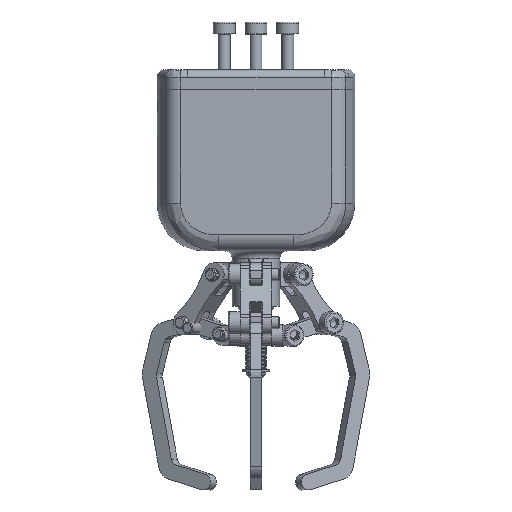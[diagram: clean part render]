
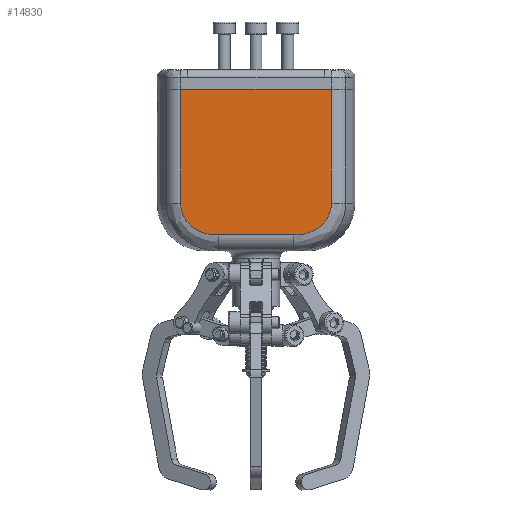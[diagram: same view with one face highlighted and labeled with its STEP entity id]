
A CAD part, top view. The second image highlights one B-rep face of the part: STEP entity #14830.
In plain terms, the highlighted planar face has unit normal (0, 0, 1) as drawn and (0, -1, 0) by its records, which use the part's own axes.
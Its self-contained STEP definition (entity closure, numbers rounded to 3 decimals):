
#1027=PLANE('',#15936);
#1446=B_SPLINE_CURVE_WITH_KNOTS('',3,(#22138,#22139,#22140,#22141,#22142,
#22143,#22144),.UNSPECIFIED.,.F.,.F.,(4,1,1,1,4),(0.,0.198,
0.595,0.991,1.388),.UNSPECIFIED.);
#1448=B_SPLINE_CURVE_WITH_KNOTS('',3,(#22196,#22197,#22198,#22199,#22200,
#22201,#22202),.UNSPECIFIED.,.F.,.F.,(4,1,1,1,4),(0.,0.198,
0.595,0.991,1.388),.UNSPECIFIED.);
#1726=FACE_OUTER_BOUND('',#2530,.T.);
#2530=EDGE_LOOP('',(#10255,#10256,#10257,#10258,#10259,#10260));
#3409=LINE('',#22092,#4668);
#3410=LINE('',#22149,#4669);
#3412=LINE('',#22207,#4671);
#3414=LINE('',#22222,#4673);
#4668=VECTOR('',#17530,10.);
#4669=VECTOR('',#17537,10.);
#4671=VECTOR('',#17545,10.);
#4673=VECTOR('',#17571,10.);
#6523=VERTEX_POINT('',#22085);
#6526=VERTEX_POINT('',#22090);
#6528=VERTEX_POINT('',#22136);
#6530=VERTEX_POINT('',#22147);
#6532=VERTEX_POINT('',#22194);
#6534=VERTEX_POINT('',#22205);
#7985=EDGE_CURVE('',#6526,#6523,#3409,.T.);
#7988=EDGE_CURVE('',#6528,#6526,#1446,.T.);
#7990=EDGE_CURVE('',#6530,#6528,#3410,.T.);
#7994=EDGE_CURVE('',#6532,#6530,#1448,.T.);
#7996=EDGE_CURVE('',#6534,#6532,#3412,.T.);
#8005=EDGE_CURVE('',#6523,#6534,#3414,.T.);
#10255=ORIENTED_EDGE('',*,*,#7996,.F.);
#10256=ORIENTED_EDGE('',*,*,#8005,.F.);
#10257=ORIENTED_EDGE('',*,*,#7985,.F.);
#10258=ORIENTED_EDGE('',*,*,#7988,.F.);
#10259=ORIENTED_EDGE('',*,*,#7990,.F.);
#10260=ORIENTED_EDGE('',*,*,#7994,.F.);
#14830=ADVANCED_FACE('',(#1726),#1027,.T.);
#15936=AXIS2_PLACEMENT_3D('',#22272,#17610,#17611);
#17530=DIRECTION('',(0.,0.,1.));
#17537=DIRECTION('',(-1.,0.,0.));
#17545=DIRECTION('',(0.,0.,-1.));
#17571=DIRECTION('',(1.,0.,0.));
#17610=DIRECTION('center_axis',(0.,-1.,0.));
#17611=DIRECTION('ref_axis',(1.,0.,0.));
#22085=CARTESIAN_POINT('',(-19.043,-12.852,54.75));
#22090=CARTESIAN_POINT('',(-19.043,-12.852,26.));
#22092=CARTESIAN_POINT('',(-19.043,-12.852,17.));
#22136=CARTESIAN_POINT('',(-9.521,-12.852,18.));
#22138=CARTESIAN_POINT('Ctrl Pts',(-9.521,-12.852,
18.));
#22139=CARTESIAN_POINT('Ctrl Pts',(-10.182,-12.852,
18.));
#22140=CARTESIAN_POINT('Ctrl Pts',(-12.163,-12.852,
18.131));
#22141=CARTESIAN_POINT('Ctrl Pts',(-15.362,-12.852,
19.191));
#22142=CARTESIAN_POINT('Ctrl Pts',(-18.295,-12.852,22.04));
#22143=CARTESIAN_POINT('Ctrl Pts',(-19.043,-12.852,
24.678));
#22144=CARTESIAN_POINT('Ctrl Pts',(-19.043,-12.852,
26.));
#22147=CARTESIAN_POINT('',(9.521,-12.852,18.));
#22149=CARTESIAN_POINT('',(-10.722,-12.852,18.));
#22194=CARTESIAN_POINT('',(19.043,-12.852,26.));
#22196=CARTESIAN_POINT('Ctrl Pts',(19.043,-12.852,26.));
#22197=CARTESIAN_POINT('Ctrl Pts',(19.043,-12.852,25.339));
#22198=CARTESIAN_POINT('Ctrl Pts',(18.774,-12.852,23.353));
#22199=CARTESIAN_POINT('Ctrl Pts',(17.004,-12.852,20.428));
#22200=CARTESIAN_POINT('Ctrl Pts',(13.5,-12.852,18.36));
#22201=CARTESIAN_POINT('Ctrl Pts',(10.843,-12.852,18.));
#22202=CARTESIAN_POINT('Ctrl Pts',(9.521,-12.852,18.));
#22205=CARTESIAN_POINT('',(19.043,-12.852,54.75));
#22207=CARTESIAN_POINT('',(19.043,-12.852,17.));
#22222=CARTESIAN_POINT('',(-21.444,-12.852,54.75));
#22272=CARTESIAN_POINT('Origin',(-21.444,-12.852,17.));
